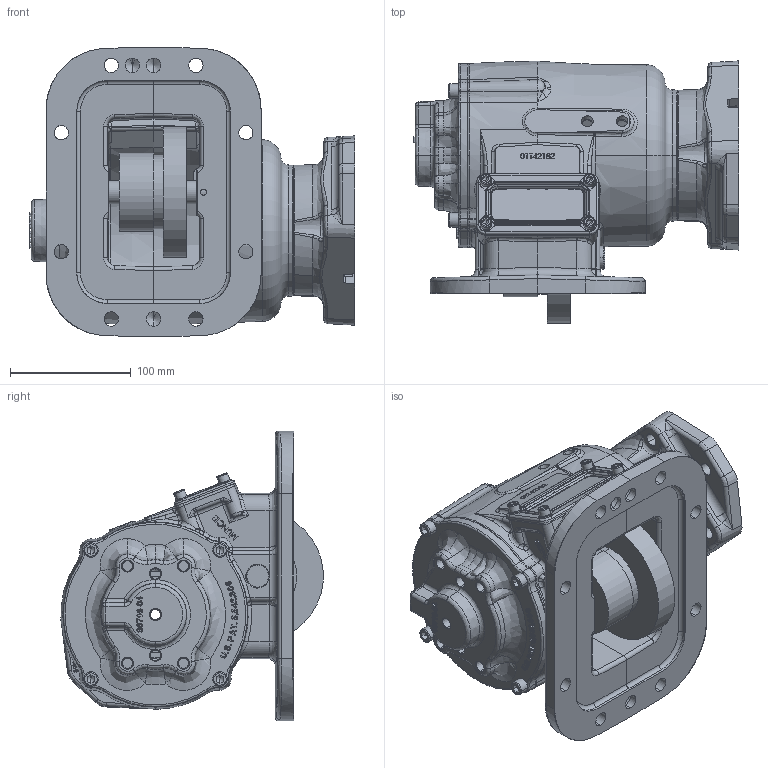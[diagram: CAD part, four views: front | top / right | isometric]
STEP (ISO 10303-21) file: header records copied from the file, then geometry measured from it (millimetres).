
FILE_DESCRIPTION (( 'STEP AP203' ), '1' );
FILE_NAME ('CS8S-XXXXX-X2PX.STEP', '2012-05-31T15:21:34', ( '' ), ( '' ), 'SwSTEP 2.0', 'SolidWorks 2012', '' );
FILE_SCHEMA (( 'CONFIG_CONTROL_DESIGN' ));
Products named in the file (3): CS8S-XXXXX-X2PX; 14T37779; CS8S-XXXXX-X2XX
Assembly tree (2 placements, depth 2):
  CS8S-XXXXX-X2PX
    CS8S-XXXXX-X2XX
    14T37779
Bounding box: 268.87 x 216.78 x 239.61 mm (x, y, z)
Volume: 2003116.4 mm3; surface area: 480794.6 mm2
Topology: 5 solids, 5 shells, 2462 faces, 6286 edges, 3891 vertices
Faces by surface type: bspline 935, plane 661, cylinder 462, cone 320, torus 78, sphere 6
Entity records: 133241 total; most frequent: CARTESIAN_POINT 80179, ORIENTED_EDGE 12400, DIRECTION 8665, EDGE_CURVE 6200, VERTEX_POINT 3891, AXIS2_PLACEMENT_3D 3046, EDGE_LOOP 2717, LINE 2573
